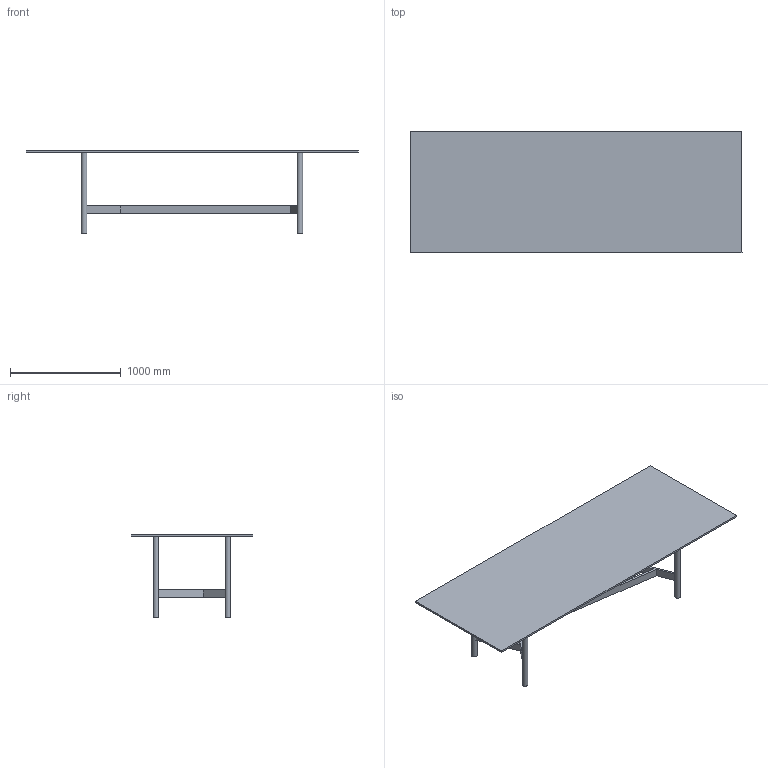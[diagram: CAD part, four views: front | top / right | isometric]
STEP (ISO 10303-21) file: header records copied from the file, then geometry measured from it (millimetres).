
FILE_DESCRIPTION(/* description */ (''),/* implementation_level */ '2;1');
FILE_NAME(/* name */ 'AGOS-3~1',/* time_stamp */ '2022-10-18T18:19:44+02:00',/* author */ (''),/* organization */ (''),/* preprocessor_version */ 'ST-DEVELOPER v16.5',/* originating_system */ '',/* authorisation */ '');
FILE_SCHEMA (('AUTOMOTIVE_DESIGN'));
Length unit declared in the file: millimetre
Products named in the file (1): Document
Bounding box: 3000.27 x 1100.1 x 748.5 mm (x, y, z)
Volume: 63752434.9 mm3; surface area: 7866241.6 mm2
Topology: 6 solids, 6 shells, 40 faces, 84 edges, 56 vertices
Faces by surface type: plane 36, bspline 4
Entity records: 1095 total; most frequent: CARTESIAN_POINT 390, ORIENTED_EDGE 168, EDGE_CURVE 84, B_SPLINE_CURVE_WITH_KNOTS 72, VERTEX_POINT 56, EDGE_LOOP 44, ADVANCED_FACE 40, FACE_OUTER_BOUND 40
